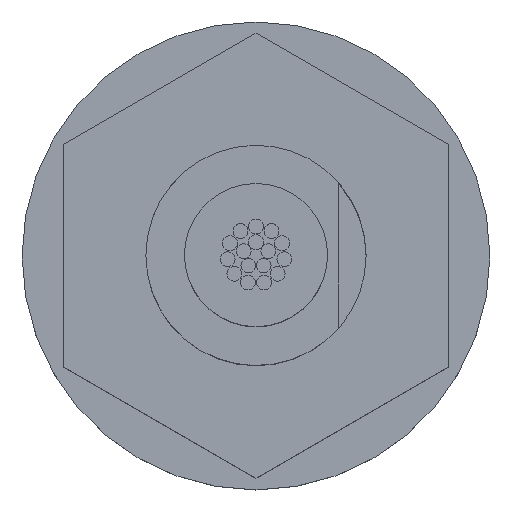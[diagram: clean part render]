
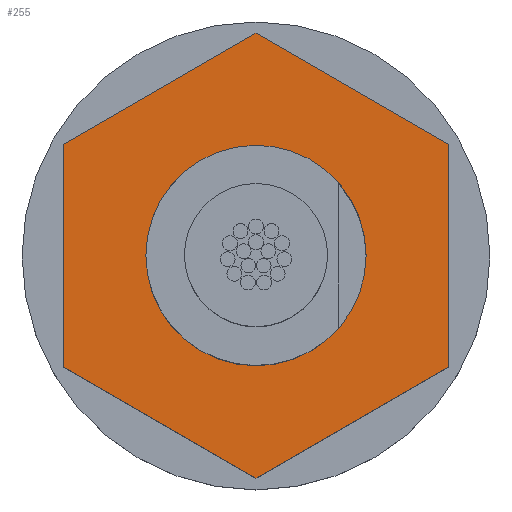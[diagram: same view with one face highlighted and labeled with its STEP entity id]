
A CAD part, top view. The second image highlights one B-rep face of the part: STEP entity #255.
In plain terms, the highlighted planar face has unit normal (0, 0, 1) as drawn and (-1, 0, 0) by its records, which use the part's own axes.
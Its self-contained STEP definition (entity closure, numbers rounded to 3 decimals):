
#175 = EDGE_LOOP ( 'NONE', ( #176, #180, #183, #186, #240, #243 ) ) ;
#176 = ORIENTED_EDGE ( 'NONE', *, *, #177, .T. ) ;
#177 = EDGE_CURVE ( 'NONE', #178, #179, #1367, .T. ) ;
#178 = VERTEX_POINT ( 'NONE', #1363 ) ;
#179 = VERTEX_POINT ( 'NONE', #1362 ) ;
#180 = ORIENTED_EDGE ( 'NONE', *, *, #181, .T. ) ;
#181 = EDGE_CURVE ( 'NONE', #179, #182, #1361, .T. ) ;
#182 = VERTEX_POINT ( 'NONE', #1357 ) ;
#183 = ORIENTED_EDGE ( 'NONE', *, *, #184, .T. ) ;
#184 = EDGE_CURVE ( 'NONE', #182, #185, #1356, .T. ) ;
#185 = VERTEX_POINT ( 'NONE', #1352 ) ;
#186 = ORIENTED_EDGE ( 'NONE', *, *, #187, .T. ) ;
#187 = EDGE_CURVE ( 'NONE', #185, #239, #1351, .T. ) ;
#196 = EDGE_CURVE ( 'NONE', #197, #198, #1340, .T. ) ;
#197 = VERTEX_POINT ( 'NONE', #1336 ) ;
#198 = VERTEX_POINT ( 'NONE', #1335 ) ;
#239 = VERTEX_POINT ( 'NONE', #1406 ) ;
#240 = ORIENTED_EDGE ( 'NONE', *, *, #241, .T. ) ;
#241 = EDGE_CURVE ( 'NONE', #239, #242, #1405, .T. ) ;
#242 = VERTEX_POINT ( 'NONE', #1401 ) ;
#243 = ORIENTED_EDGE ( 'NONE', *, *, #244, .T. ) ;
#244 = EDGE_CURVE ( 'NONE', #242, #178, #1400, .T. ) ;
#245 = EDGE_LOOP ( 'NONE', ( #246, #247 ) ) ;
#246 = ORIENTED_EDGE ( 'NONE', *, *, #196, .F. ) ;
#247 = ORIENTED_EDGE ( 'NONE', *, *, #248, .F. ) ;
#248 = EDGE_CURVE ( 'NONE', #198, #197, #1463, .T. ) ;
#255 = ADVANCED_FACE ( 'NONE', ( #1443, #1442 ), #1441, .T. ) ;
#1335 = CARTESIAN_POINT ( 'NONE',  ( 5.9, -2., 0. ) ) ;
#1336 = CARTESIAN_POINT ( 'NONE',  ( 5.9, 2., 0. ) ) ;
#1337 = DIRECTION ( 'NONE',  ( 0., -1., 0. ) ) ;
#1338 = DIRECTION ( 'NONE',  ( -1., 0., 0. ) ) ;
#1339 = AXIS2_PLACEMENT_3D ( 'NONE', #1345, #1338, #1337 ) ;
#1340 = CIRCLE ( 'NONE', #1339, 2. ) ;
#1345 = CARTESIAN_POINT ( 'NONE',  ( 5.9, 0., 0. ) ) ;
#1348 = DIRECTION ( 'NONE',  ( 0., -0.5, 0.866 ) ) ;
#1349 = VECTOR ( 'NONE', #1348, 1000. ) ;
#1350 = CARTESIAN_POINT ( 'NONE',  ( 5.9, -2.021, -3.5 ) ) ;
#1351 = LINE ( 'NONE', #1350, #1349 ) ;
#1352 = CARTESIAN_POINT ( 'NONE',  ( 5.9, -2.021, -3.5 ) ) ;
#1353 = DIRECTION ( 'NONE',  ( 0., -1., 0. ) ) ;
#1354 = VECTOR ( 'NONE', #1353, 1000. ) ;
#1355 = CARTESIAN_POINT ( 'NONE',  ( 5.9, 2.021, -3.5 ) ) ;
#1356 = LINE ( 'NONE', #1355, #1354 ) ;
#1357 = CARTESIAN_POINT ( 'NONE',  ( 5.9, 2.021, -3.5 ) ) ;
#1358 = DIRECTION ( 'NONE',  ( 0., -0.5, -0.866 ) ) ;
#1359 = VECTOR ( 'NONE', #1358, 1000. ) ;
#1360 = CARTESIAN_POINT ( 'NONE',  ( 5.9, 4.041, 0. ) ) ;
#1361 = LINE ( 'NONE', #1360, #1359 ) ;
#1362 = CARTESIAN_POINT ( 'NONE',  ( 5.9, 4.041, 0. ) ) ;
#1363 = CARTESIAN_POINT ( 'NONE',  ( 5.9, 2.021, 3.5 ) ) ;
#1364 = DIRECTION ( 'NONE',  ( 0., 0.5, -0.866 ) ) ;
#1365 = VECTOR ( 'NONE', #1364, 1000. ) ;
#1366 = CARTESIAN_POINT ( 'NONE',  ( 5.9, 2.021, 3.5 ) ) ;
#1367 = LINE ( 'NONE', #1366, #1365 ) ;
#1400 = LINE ( 'NONE', #1466, #1465 ) ;
#1401 = CARTESIAN_POINT ( 'NONE',  ( 5.9, -2.021, 3.5 ) ) ;
#1402 = DIRECTION ( 'NONE',  ( 0., 0.5, 0.866 ) ) ;
#1403 = VECTOR ( 'NONE', #1402, 1000. ) ;
#1404 = CARTESIAN_POINT ( 'NONE',  ( 5.9, -4.041, 0. ) ) ;
#1405 = LINE ( 'NONE', #1404, #1403 ) ;
#1406 = CARTESIAN_POINT ( 'NONE',  ( 5.9, -4.041, 0. ) ) ;
#1437 = DIRECTION ( 'NONE',  ( 0., -1., 0. ) ) ;
#1438 = DIRECTION ( 'NONE',  ( -1., 0., 0. ) ) ;
#1439 = CARTESIAN_POINT ( 'NONE',  ( 5.9, 4.041, 0. ) ) ;
#1440 = AXIS2_PLACEMENT_3D ( 'NONE', #1439, #1438, #1437 ) ;
#1441 = PLANE ( 'NONE',  #1440 ) ;
#1442 = FACE_BOUND ( 'NONE', #245, .T. ) ;
#1443 = FACE_OUTER_BOUND ( 'NONE', #175, .T. ) ;
#1459 = DIRECTION ( 'NONE',  ( 0., -1., 0. ) ) ;
#1460 = DIRECTION ( 'NONE',  ( -1., 0., 0. ) ) ;
#1461 = CARTESIAN_POINT ( 'NONE',  ( 5.9, 0., 0. ) ) ;
#1462 = AXIS2_PLACEMENT_3D ( 'NONE', #1461, #1460, #1459 ) ;
#1463 = CIRCLE ( 'NONE', #1462, 2. ) ;
#1464 = DIRECTION ( 'NONE',  ( 0., 1., 0. ) ) ;
#1465 = VECTOR ( 'NONE', #1464, 1000. ) ;
#1466 = CARTESIAN_POINT ( 'NONE',  ( 5.9, -2.021, 3.5 ) ) ;
